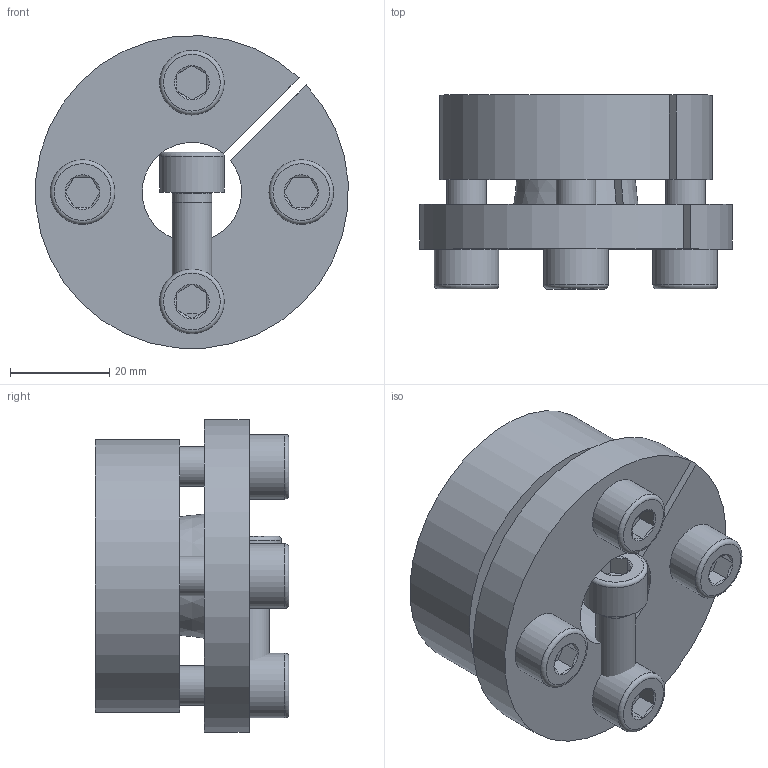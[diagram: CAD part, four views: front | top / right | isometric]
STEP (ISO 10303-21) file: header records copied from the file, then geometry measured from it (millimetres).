
FILE_DESCRIPTION( ( 'Unknown' ), '1' );
FILE_NAME( 'C:/Dokumente und Einstellungen/Sven/Desktop/15/KBS 15 - 20 x 55.stp', 'Unknown', ( 'Unknown' ), ( 'Unknown' ), 'XStep 1.0', 'Unknown', ' ' );
FILE_SCHEMA( ( 'automotive_design' ) );
Length unit declared in the file: millimetre
Products named in the file (3): Assem1; ISO EN DIN 4762 M8x25_3; KBS 15 - 20 x 55_0
Bounding box: 62.84 x 39 x 62.84 mm (x, y, z)
Volume: 121651.1 mm3; surface area: 44267.5 mm2
Topology: 7 solids, 7 shells, 165 faces, 342 edges, 211 vertices
Faces by surface type: plane 74, cylinder 42, cone 39, torus 10
Full cylindrical faces by diameter (mm): 6.647 x8, 7 x5, 8 x10, 9 x8, 13 x5
Entity records: 1434 total; most frequent: CARTESIAN_POINT 239, DIRECTION 220, ORIENTED_EDGE 162, AXIS2_PLACEMENT_3D 96, EDGE_CURVE 81, EDGE_LOOP 80, FACE_OUTER_BOUND 59, VERTEX_POINT 59
